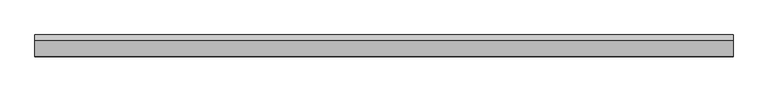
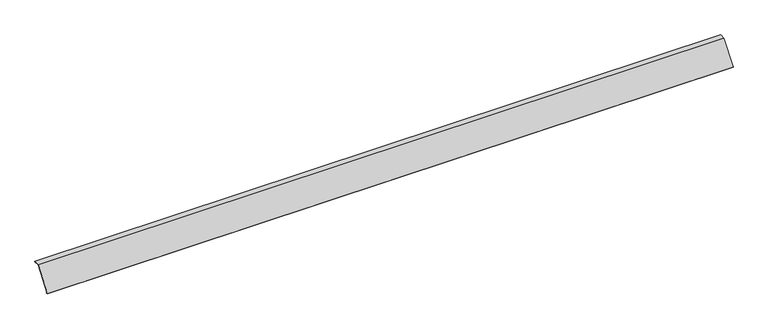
"""IFC4 building model written with IfcOpenShell, lengths in millimetres: proxy geometry, GROVIK_Flashing_Eaves : B-205 A 160mm 38°."""

from ifc_helpers import new_model, si_unit, frame, origin, place, context, project, spatial, polyline, outline, extrude, source, transform, mapped, element, save


def generic_models_d0b2a56a(model_context):
    return source(origin(), model_context, "Body", "SweptSolid", [
        extrude(outline(polyline([(-0.5051107, 0.9913356), (-96.4853317, -126.3787196), (-86.4914234, -126.7277146), (-86.5263229, -127.7271054), (-98.4400431, -127.3110691), (-1.0102214, 1.9826712), (33.9599168, 2.5930772), (33.9773692, 1.5932295), (-0.5051107, 0.9913356)])), frame((0.0, 0.0, 0.0), z_axis=(1.0, 0.0, 0.0), x_axis=(0.0, 1.0, 0.0)), (0.0, 0.0, 1.0), 4200.0),
    ])


if __name__ == "__main__":
    model = new_model("IFC4")
    model_context = context("Model", 3, world=origin())
    ifc_project = project(units=[si_unit("LENGTHUNIT", "METRE", prefix="MILLI")], contexts=[model_context])
    site = spatial("IfcSite", under=ifc_project)
    building = spatial("IfcBuilding", under=site)
    placement = place(None, origin())
    generic_models_shape = generic_models_d0b2a56a(model_context)
    element("IfcBuildingElementProxy", 1, Name="GROVIK_Flashing_Eaves : B-205 A 160mm 38°", ObjectType="GROVIK_Flashing_Eaves : B-205 A 160mm 38°", at=placement, inside=building, context=model_context, shape_type="MappedRepresentation", body=[
        mapped(generic_models_shape, transform((0.0, 0.0, 0.0), x_axis=(1.0, 0.0, 0.0), y_axis=(0.0, 1.0, 0.0), z_axis=(0.0, 0.0, 1.0))),
    ])
    save(model, "model.ifc")
